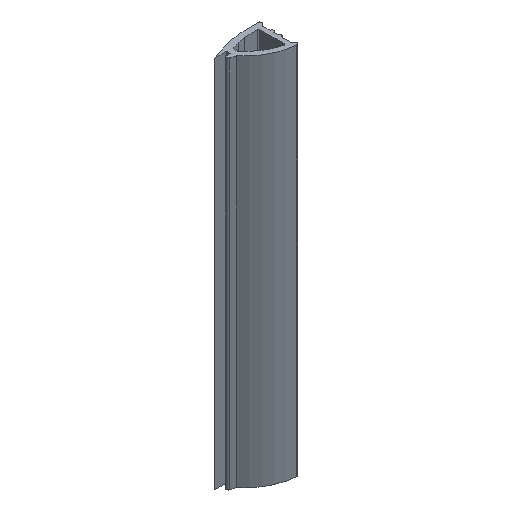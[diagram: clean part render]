
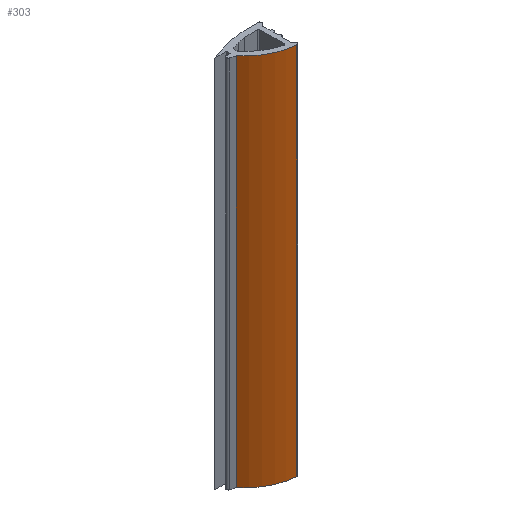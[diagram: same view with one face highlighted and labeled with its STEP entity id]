
A CAD part, isometric view. The second image highlights one B-rep face of the part: STEP entity #303.
In plain terms, the highlighted cylindrical face has radius 14.902 mm (diameter 29.805 mm), a partial arc.
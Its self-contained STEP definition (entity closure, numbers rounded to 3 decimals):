
#10 = CYLINDRICAL_SURFACE ( 'NONE', #922, 14.903 ) ;
#46 = CARTESIAN_POINT ( 'NONE',  ( 1.624, -8.536, 0. ) ) ;
#52 = LINE ( 'NONE', #465, #421 ) ;
#86 = ORIENTED_EDGE ( 'NONE', *, *, #492, .T. ) ;
#105 = CARTESIAN_POINT ( 'NONE',  ( -8.97, -3.005, 0. ) ) ;
#136 = CARTESIAN_POINT ( 'NONE',  ( 2.646, 6.331, 0. ) ) ;
#174 = EDGE_CURVE ( 'NONE', #903, #975, #989, .T. ) ;
#211 = EDGE_LOOP ( 'NONE', ( #86, #734, #289, #982 ) ) ;
#289 = ORIENTED_EDGE ( 'NONE', *, *, #843, .F. ) ;
#294 = CARTESIAN_POINT ( 'NONE',  ( -8.97, -3.005, 100. ) ) ;
#303 = ADVANCED_FACE ( 'NONE', ( #878 ), #10, .T. ) ;
#350 = DIRECTION ( 'NONE',  ( -1., 0., 0. ) ) ;
#368 = DIRECTION ( 'NONE',  ( 1., 0., 0. ) ) ;
#370 = DIRECTION ( 'NONE',  ( 0., 0., -1. ) ) ;
#379 = VERTEX_POINT ( 'NONE', #105 ) ;
#421 = VECTOR ( 'NONE', #853, 1000. ) ;
#440 = AXIS2_PLACEMENT_3D ( 'NONE', #580, #669, #984 ) ;
#465 = CARTESIAN_POINT ( 'NONE',  ( -8.97, -3.005, 100. ) ) ;
#477 = EDGE_CURVE ( 'NONE', #953, #379, #52, .T. ) ;
#482 = CARTESIAN_POINT ( 'NONE',  ( 2.646, 6.331, 100. ) ) ;
#492 = EDGE_CURVE ( 'NONE', #379, #975, #688, .T. ) ;
#580 = CARTESIAN_POINT ( 'NONE',  ( 2.646, 6.331, 100. ) ) ;
#617 = CARTESIAN_POINT ( 'NONE',  ( 1.624, -8.536, 100. ) ) ;
#621 = DIRECTION ( 'NONE',  ( 0., 0., -1. ) ) ;
#669 = DIRECTION ( 'NONE',  ( 0., 0., 1. ) ) ;
#688 = CIRCLE ( 'NONE', #854, 14.903 ) ;
#734 = ORIENTED_EDGE ( 'NONE', *, *, #174, .F. ) ;
#755 = CARTESIAN_POINT ( 'NONE',  ( 1.624, -8.536, 100. ) ) ;
#780 = DIRECTION ( 'NONE',  ( 0., 0., 1. ) ) ;
#843 = EDGE_CURVE ( 'NONE', #953, #903, #884, .T. ) ;
#853 = DIRECTION ( 'NONE',  ( 0., 0., -1. ) ) ;
#854 = AXIS2_PLACEMENT_3D ( 'NONE', #136, #780, #368 ) ;
#878 = FACE_OUTER_BOUND ( 'NONE', #211, .T. ) ;
#884 = CIRCLE ( 'NONE', #440, 14.903 ) ;
#902 = VECTOR ( 'NONE', #370, 1000. ) ;
#903 = VERTEX_POINT ( 'NONE', #617 ) ;
#922 = AXIS2_PLACEMENT_3D ( 'NONE', #482, #621, #350 ) ;
#953 = VERTEX_POINT ( 'NONE', #294 ) ;
#975 = VERTEX_POINT ( 'NONE', #46 ) ;
#982 = ORIENTED_EDGE ( 'NONE', *, *, #477, .T. ) ;
#984 = DIRECTION ( 'NONE',  ( 1., 0., 0. ) ) ;
#989 = LINE ( 'NONE', #755, #902 ) ;
